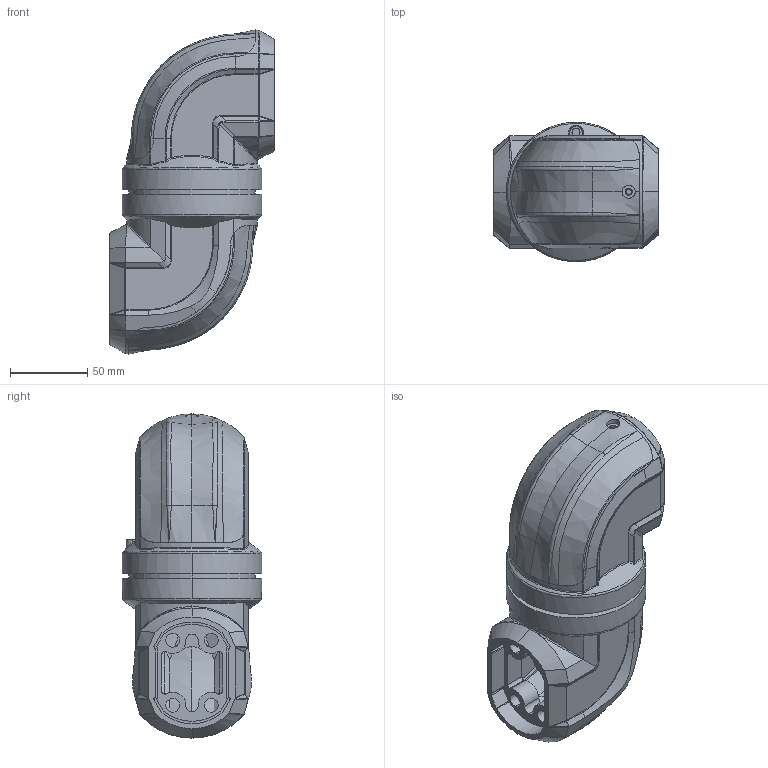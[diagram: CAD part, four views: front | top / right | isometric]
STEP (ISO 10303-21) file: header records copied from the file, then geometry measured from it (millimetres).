
FILE_DESCRIPTION (( 'STEP AP203' ), '1' );
FILE_NAME ('50-65-5030.STEP', '2019-10-03T05:24:38', ( 'User' ), ( 'Microsoft' ), 'SwSTEP 2.0', 'SolidWorks 2017', '' );
FILE_SCHEMA (( 'CONFIG_CONTROL_DESIGN' ));
Length unit declared in the file: millimetre
Products named in the file (4): 50-階釱; 50裔赽; 50-65-5030; 50-Х釴2
Assembly tree (4 placements, depth 2):
  50-65-5030
    50-Х釴2
    50-階釱
    50裔赽  x2
Bounding box: 106 x 90 x 209.2 mm (x, y, z)
Volume: 212934.8 mm3; surface area: 142365.6 mm2
Topology: 3 solids, 5 shells, 817 faces, 2124 edges, 1307 vertices
Faces by surface type: bspline 311, cylinder 282, plane 202, cone 14, torus 8
Entity records: 55827 total; most frequent: CARTESIAN_POINT 40848, ORIENTED_EDGE 3526, DIRECTION 2227, EDGE_CURVE 1765, VERTEX_POINT 1096, AXIS2_PLACEMENT_3D 820, B_SPLINE_CURVE_WITH_KNOTS 762, EDGE_LOOP 734
